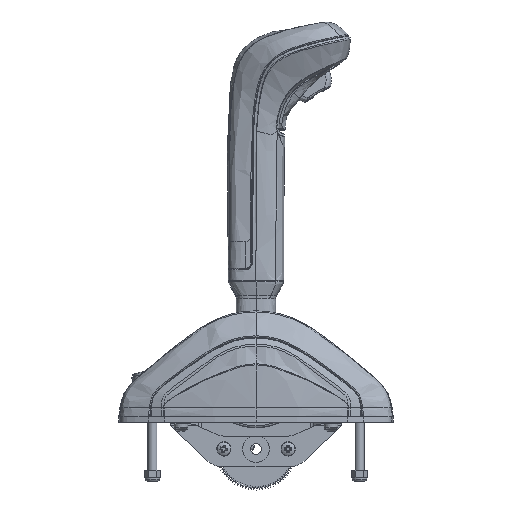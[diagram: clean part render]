
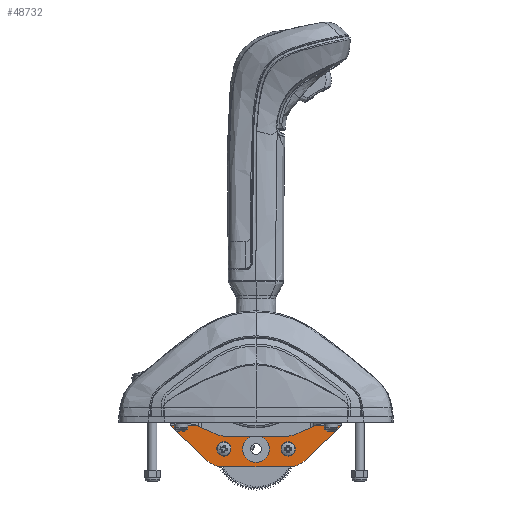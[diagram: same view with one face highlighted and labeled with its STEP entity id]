
A CAD part, left-side view. The second image highlights one B-rep face of the part: STEP entity #48732.
In plain terms, the highlighted planar face has unit normal (-1, 0, 0) as drawn and (1, 0, 0) by its records, which use the part's own axes.
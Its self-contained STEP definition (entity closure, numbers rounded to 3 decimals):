
#4885=LINE('',#109750,#8614);
#4890=LINE('',#109765,#8619);
#4899=LINE('',#109787,#8628);
#4913=LINE('',#109833,#8642);
#4915=LINE('',#109837,#8644);
#4916=LINE('',#109840,#8645);
#4923=LINE('',#109859,#8652);
#4925=LINE('',#109865,#8654);
#4943=LINE('',#109905,#8672);
#4945=LINE('',#109909,#8674);
#4961=LINE('',#109949,#8690);
#4962=LINE('',#109951,#8691);
#8614=VECTOR('',#58235,10.);
#8619=VECTOR('',#58248,10.);
#8628=VECTOR('',#58265,10.);
#8642=VECTOR('',#58305,10.);
#8644=VECTOR('',#58309,10.);
#8645=VECTOR('',#58312,10.);
#8652=VECTOR('',#58333,10.);
#8654=VECTOR('',#58341,10.);
#8672=VECTOR('',#58377,10.);
#8674=VECTOR('',#58383,10.);
#8690=VECTOR('',#58423,10.);
#8691=VECTOR('',#58426,10.);
#11921=FACE_BOUND('',#17029,.T.);
#11922=FACE_BOUND('',#17030,.T.);
#11923=FACE_BOUND('',#17031,.T.);
#12407=PLANE('',#52519);
#14239=FACE_OUTER_BOUND('',#17028,.T.);
#17028=EDGE_LOOP('',(#37695,#37696,#37697,#37698,#37699,#37700,#37701,#37702,
#37703,#37704,#37705,#37706,#37707,#37708,#37709,#37710,#37711,#37712));
#17029=EDGE_LOOP('',(#37713));
#17030=EDGE_LOOP('',(#37714));
#17031=EDGE_LOOP('',(#37715,#37716));
#19500=CIRCLE('',#52460,4.);
#19502=CIRCLE('',#52464,4.);
#19504=CIRCLE('',#52468,12.);
#19515=CIRCLE('',#52482,12.);
#19516=CIRCLE('',#52487,1.621);
#19517=CIRCLE('',#52489,1.621);
#19518=CIRCLE('',#52491,10.);
#19519=CIRCLE('',#52494,10.);
#19524=CIRCLE('',#52516,7.5);
#19525=CIRCLE('',#52517,7.5);
#21877=VERTEX_POINT('',#109740);
#21878=VERTEX_POINT('',#109741);
#21881=VERTEX_POINT('',#109749);
#21883=VERTEX_POINT('',#109755);
#21884=VERTEX_POINT('',#109756);
#21887=VERTEX_POINT('',#109764);
#21891=VERTEX_POINT('',#109774);
#21892=VERTEX_POINT('',#109775);
#21896=VERTEX_POINT('',#109785);
#21914=VERTEX_POINT('',#109827);
#21915=VERTEX_POINT('',#109831);
#21916=VERTEX_POINT('',#109835);
#21917=VERTEX_POINT('',#109839);
#21918=VERTEX_POINT('',#109843);
#21919=VERTEX_POINT('',#109847);
#21920=VERTEX_POINT('',#109851);
#21921=VERTEX_POINT('',#109853);
#21922=VERTEX_POINT('',#109857);
#21923=VERTEX_POINT('',#109861);
#21936=VERTEX_POINT('',#109903);
#21947=VERTEX_POINT('',#109943);
#21948=VERTEX_POINT('',#109944);
#27614=EDGE_CURVE('',#21877,#21878,#19500,.T.);
#27618=EDGE_CURVE('',#21881,#21878,#4885,.T.);
#27621=EDGE_CURVE('',#21883,#21884,#19502,.F.);
#27625=EDGE_CURVE('',#21883,#21887,#4890,.T.);
#27630=EDGE_CURVE('',#21891,#21892,#19504,.T.);
#27636=EDGE_CURVE('',#21896,#21891,#4899,.T.);
#27657=EDGE_CURVE('',#21914,#21896,#19515,.T.);
#27660=EDGE_CURVE('',#21914,#21915,#4913,.T.);
#27662=EDGE_CURVE('',#21884,#21916,#4915,.T.);
#27663=EDGE_CURVE('',#21917,#21892,#4916,.T.);
#27666=EDGE_CURVE('',#21918,#21918,#19516,.T.);
#27668=EDGE_CURVE('',#21919,#21919,#19517,.T.);
#27670=EDGE_CURVE('',#21920,#21921,#19518,.T.);
#27673=EDGE_CURVE('',#21920,#21922,#4923,.T.);
#27675=EDGE_CURVE('',#21923,#21922,#19519,.T.);
#27676=EDGE_CURVE('',#21881,#21923,#4925,.T.);
#27696=EDGE_CURVE('',#21936,#21877,#4943,.T.);
#27698=EDGE_CURVE('',#21917,#21936,#4945,.T.);
#27715=EDGE_CURVE('',#21947,#21948,#19524,.T.);
#27717=EDGE_CURVE('',#21948,#21947,#19525,.T.);
#27718=EDGE_CURVE('',#21916,#21921,#4961,.T.);
#27719=EDGE_CURVE('',#21887,#21915,#4962,.T.);
#37695=ORIENTED_EDGE('',*,*,#27630,.F.);
#37696=ORIENTED_EDGE('',*,*,#27636,.F.);
#37697=ORIENTED_EDGE('',*,*,#27657,.F.);
#37698=ORIENTED_EDGE('',*,*,#27660,.T.);
#37699=ORIENTED_EDGE('',*,*,#27719,.F.);
#37700=ORIENTED_EDGE('',*,*,#27625,.F.);
#37701=ORIENTED_EDGE('',*,*,#27621,.T.);
#37702=ORIENTED_EDGE('',*,*,#27662,.T.);
#37703=ORIENTED_EDGE('',*,*,#27718,.T.);
#37704=ORIENTED_EDGE('',*,*,#27670,.F.);
#37705=ORIENTED_EDGE('',*,*,#27673,.T.);
#37706=ORIENTED_EDGE('',*,*,#27675,.F.);
#37707=ORIENTED_EDGE('',*,*,#27676,.F.);
#37708=ORIENTED_EDGE('',*,*,#27618,.T.);
#37709=ORIENTED_EDGE('',*,*,#27614,.F.);
#37710=ORIENTED_EDGE('',*,*,#27696,.F.);
#37711=ORIENTED_EDGE('',*,*,#27698,.F.);
#37712=ORIENTED_EDGE('',*,*,#27663,.T.);
#37713=ORIENTED_EDGE('',*,*,#27666,.T.);
#37714=ORIENTED_EDGE('',*,*,#27668,.T.);
#37715=ORIENTED_EDGE('',*,*,#27715,.F.);
#37716=ORIENTED_EDGE('',*,*,#27717,.F.);
#48732=ADVANCED_FACE('',(#14239,#11921,#11922,#11923),#12407,.T.);
#52460=AXIS2_PLACEMENT_3D('',#109742,#58227,#58228);
#52464=AXIS2_PLACEMENT_3D('',#109757,#58240,#58241);
#52468=AXIS2_PLACEMENT_3D('',#109776,#58255,#58256);
#52482=AXIS2_PLACEMENT_3D('',#109828,#58299,#58300);
#52487=AXIS2_PLACEMENT_3D('',#109845,#58317,#58318);
#52489=AXIS2_PLACEMENT_3D('',#109849,#58322,#58323);
#52491=AXIS2_PLACEMENT_3D('',#109854,#58327,#58328);
#52494=AXIS2_PLACEMENT_3D('',#109863,#58337,#58338);
#52516=AXIS2_PLACEMENT_3D('',#109945,#58416,#58417);
#52517=AXIS2_PLACEMENT_3D('',#109947,#58419,#58420);
#52519=AXIS2_PLACEMENT_3D('',#109950,#58424,#58425);
#58227=DIRECTION('center_axis',(1.,0.,0.));
#58228=DIRECTION('ref_axis',(0.,0.707,0.707));
#58235=DIRECTION('',(0.,1.,0.));
#58240=DIRECTION('center_axis',(1.,0.,0.));
#58241=DIRECTION('ref_axis',(0.,-0.707,0.707));
#58248=DIRECTION('',(0.,0.,1.));
#58255=DIRECTION('center_axis',(-1.,0.,0.));
#58256=DIRECTION('ref_axis',(0.,0.367,0.93));
#58265=DIRECTION('',(0.,1.,0.));
#58299=DIRECTION('center_axis',(-1.,0.,0.));
#58300=DIRECTION('ref_axis',(0.,-0.367,0.93));
#58305=DIRECTION('',(0.,-0.73,-0.683));
#58309=DIRECTION('',(0.,1.,0.));
#58312=DIRECTION('',(0.,-0.73,0.683));
#58317=DIRECTION('center_axis',(-1.,0.,0.));
#58318=DIRECTION('ref_axis',(0.,0.,
1.));
#58322=DIRECTION('center_axis',(-1.,0.,0.));
#58323=DIRECTION('ref_axis',(0.,0.,
1.));
#58327=DIRECTION('center_axis',(1.,0.,0.));
#58328=DIRECTION('ref_axis',(0.,-0.301,0.954));
#58333=DIRECTION('',(0.,1.,0.));
#58337=DIRECTION('center_axis',(1.,0.,0.));
#58338=DIRECTION('ref_axis',(0.,0.301,0.954));
#58341=DIRECTION('',(0.,-0.819,0.574));
#58377=DIRECTION('',(0.,0.,-1.));
#58383=DIRECTION('',(0.,-1.,0.));
#58416=DIRECTION('center_axis',(1.,0.,0.));
#58417=DIRECTION('ref_axis',(0.,0.,
1.));
#58419=DIRECTION('center_axis',(1.,0.,0.));
#58420=DIRECTION('ref_axis',(0.,0.,
1.));
#58423=DIRECTION('',(0.,0.819,0.574));
#58424=DIRECTION('center_axis',(1.,0.,0.));
#58425=DIRECTION('ref_axis',(0.,0.,-1.));
#58426=DIRECTION('',(0.,-1.,0.));
#109740=CARTESIAN_POINT('',(-10.,-39.,1.));
#109741=CARTESIAN_POINT('',(-10.,-43.,5.));
#109742=CARTESIAN_POINT('Origin',(-10.,-43.,1.));
#109749=CARTESIAN_POINT('',(-10.,-46.141,5.));
#109750=CARTESIAN_POINT('',(-10.,-95.106,5.));
#109755=CARTESIAN_POINT('',(-10.,-103.,1.));
#109756=CARTESIAN_POINT('',(-10.,-99.,5.));
#109757=CARTESIAN_POINT('Origin',(-10.,-99.,1.));
#109764=CARTESIAN_POINT('',(-10.,-103.,5.));
#109765=CARTESIAN_POINT('',(-10.,-103.,7.781));
#109774=CARTESIAN_POINT('',(-10.,-52.318,28.));
#109775=CARTESIAN_POINT('',(-10.,-44.119,24.762));
#109776=CARTESIAN_POINT('Origin',(-10.,-52.318,16.));
#109785=CARTESIAN_POINT('',(-10.,-89.682,28.));
#109787=CARTESIAN_POINT('',(-10.,-47.579,28.));
#109827=CARTESIAN_POINT('',(-10.,-97.881,24.762));
#109828=CARTESIAN_POINT('Origin',(-10.,-89.682,16.));
#109831=CARTESIAN_POINT('',(-10.,-119.,5.));
#109833=CARTESIAN_POINT('',(-10.,-94.421,28.));
#109835=CARTESIAN_POINT('',(-10.,-95.859,5.));
#109837=CARTESIAN_POINT('',(-10.,-95.106,5.));
#109839=CARTESIAN_POINT('',(-10.,-23.,5.));
#109840=CARTESIAN_POINT('',(-10.,-23.,5.));
#109843=CARTESIAN_POINT('',(-10.,-53.,16.379));
#109845=CARTESIAN_POINT('Origin',(-10.,-53.,18.));
#109847=CARTESIAN_POINT('',(-10.,-89.,16.379));
#109849=CARTESIAN_POINT('Origin',(-10.,-89.,18.));
#109851=CARTESIAN_POINT('',(-10.,-87.708,8.5));
#109853=CARTESIAN_POINT('',(-10.,-93.444,6.692));
#109854=CARTESIAN_POINT('Origin',(-10.,-87.708,-1.5));
#109857=CARTESIAN_POINT('',(-10.,-54.292,8.5));
#109859=CARTESIAN_POINT('',(-10.,-71.,8.5));
#109861=CARTESIAN_POINT('',(-10.,-48.556,6.692));
#109863=CARTESIAN_POINT('Origin',(-10.,-54.292,-1.5));
#109865=CARTESIAN_POINT('',(-10.,-51.139,8.5));
#109903=CARTESIAN_POINT('',(-10.,-39.,5.));
#109905=CARTESIAN_POINT('',(-10.,-39.,7.781));
#109909=CARTESIAN_POINT('',(-10.,-34.005,5.));
#109943=CARTESIAN_POINT('',(-10.,-71.,25.5));
#109944=CARTESIAN_POINT('',(-10.,-71.,10.5));
#109945=CARTESIAN_POINT('Origin',(-10.,-71.,18.));
#109947=CARTESIAN_POINT('Origin',(-10.,-71.,18.));
#109949=CARTESIAN_POINT('',(-10.,-90.861,8.5));
#109950=CARTESIAN_POINT('Origin',(-10.,-87.212,15.563));
#109951=CARTESIAN_POINT('',(-10.,-107.995,5.));
